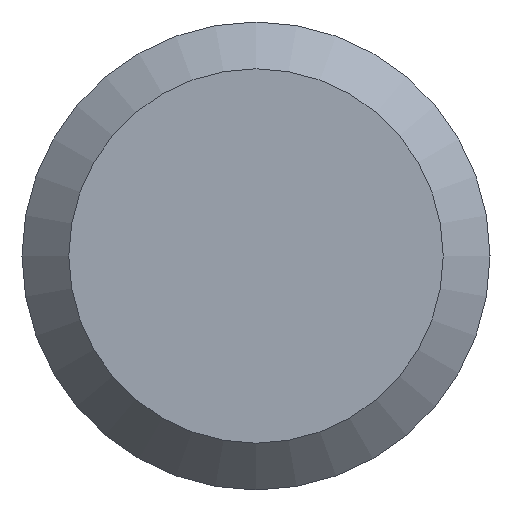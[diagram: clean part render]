
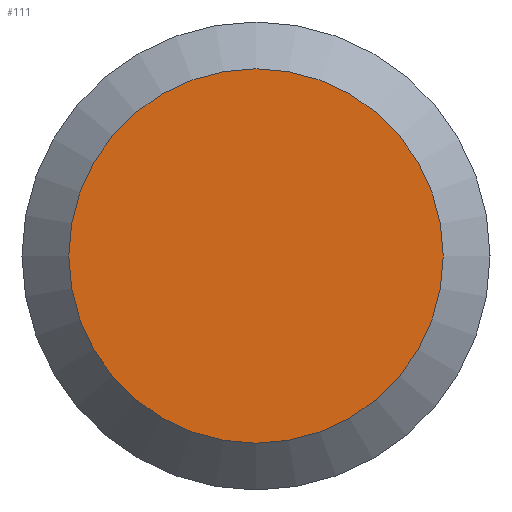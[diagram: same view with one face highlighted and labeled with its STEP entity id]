
A CAD part, left-side view. The second image highlights one B-rep face of the part: STEP entity #111.
In plain terms, the highlighted planar face has unit normal (-1, 0, 0).
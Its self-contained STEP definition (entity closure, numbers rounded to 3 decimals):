
#3 = EDGE_LOOP ( 'NONE', ( #43 ) ) ;
#11 = FACE_OUTER_BOUND ( 'NONE', #3, .T. ) ;
#20 = EDGE_CURVE ( 'NONE', #150, #150, #39, .T. ) ;
#38 = DIRECTION ( 'NONE',  ( 1., 0., 0. ) ) ;
#39 = CIRCLE ( 'NONE', #138, 8. ) ;
#43 = ORIENTED_EDGE ( 'NONE', *, *, #20, .F. ) ;
#56 = DIRECTION ( 'NONE',  ( 0., 1., 0. ) ) ;
#57 = PLANE ( 'NONE',  #194 ) ;
#83 = CARTESIAN_POINT ( 'NONE',  ( 0., 0., 0. ) ) ;
#98 = DIRECTION ( 'NONE',  ( 0., -1., 0. ) ) ;
#111 = ADVANCED_FACE ( 'NONE', ( #11 ), #57, .T. ) ;
#138 = AXIS2_PLACEMENT_3D ( 'NONE', #205, #38, #56 ) ;
#150 = VERTEX_POINT ( 'NONE', #190 ) ;
#190 = CARTESIAN_POINT ( 'NONE',  ( 0., 8., 0. ) ) ;
#194 = AXIS2_PLACEMENT_3D ( 'NONE', #83, #207, #98 ) ;
#205 = CARTESIAN_POINT ( 'NONE',  ( 0., 0., 0. ) ) ;
#207 = DIRECTION ( 'NONE',  ( -1., 0., 0. ) ) ;
